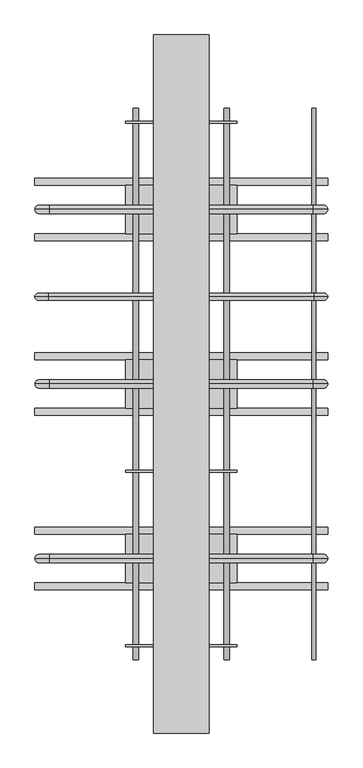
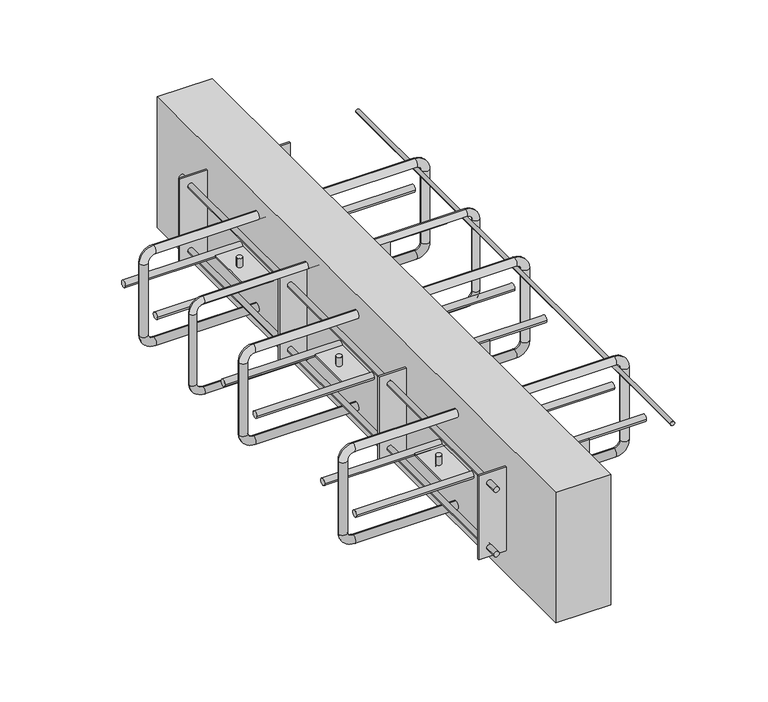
"""IFC4 building model written with IfcOpenShell, lengths in millimetres: proxy geometry, ACINOXplus_Typenreihe_Ux-Ox : OC+ S3."""

from ifc_helpers import new_model, si_unit, point, frame, frame_2d, origin, place, context, project, spatial, polyline, circle_curve, ellipse_curve, trimmed, segment, composite_curve, outline, extrude, source, transform, mapped, element, save
from ifc_brep_helpers import cylinder_surface, revolved_surface, advanced_brep


def generic_models_98fbf626(model_context):
    return source(origin(), model_context, "Body", "SolidModel", [
        advanced_brep(
        [(189.0, 0.0, -35.5), (189.0, 0.0, -23.5), (-189.0, 0.0, -23.5), (-189.0, 0.0, -35.5), (-198.0, 0.0, -44.5), (-210.0, 0.0, -44.5), (-210.0, 0.0, -155.5), (-198.0, 0.0, -155.5), (-189.0, 0.0, -164.5), (-189.0, 0.0, -176.5), (189.0, 0.0, -176.5), (189.0, 0.0, -164.5), (198.0, 0.0, -155.5), (210.0, 0.0, -155.5), (210.0, 0.0, -44.5), (198.0, 0.0, -44.5)],
        [
            (0, 1, circle_curve(frame((189.0, 0.0, -29.5), z_axis=(-1.0, 0.0, 0.0), x_axis=(0.0, 0.0, -1.0)), 6.0)),
            (1, 2),
            (2, 3, circle_curve(frame((-189.0, 0.0, -29.5), z_axis=(1.0, 0.0, 0.0), x_axis=(0.0, 0.0, -1.0)), 6.0)),
            (3, 0),
            (1, 0, circle_curve(frame((189.0, 0.0, -29.5), z_axis=(-1.0, 0.0, 0.0), x_axis=(0.0, 0.0, -1.0)), 6.0)),
            (3, 2, circle_curve(frame((-189.0, 0.0, -29.5), z_axis=(1.0, 0.0, 0.0), x_axis=(0.0, 0.0, -1.0)), 6.0)),
            (4, 3, circle_curve(frame((-189.0, 0.0, -44.5), z_axis=(0.0, 1.0, 0.0), x_axis=(0.0, 0.0, 1.0)), 9.0)),
            (2, 5, circle_curve(frame((-189.0, 0.0, -44.5), z_axis=(0.0, -1.0, 0.0), x_axis=(0.0, 0.0, 1.0)), 21.0)),
            (5, 4, circle_curve(frame((-204.0, 0.0, -44.5), z_axis=(0.0, 0.0, 1.0), x_axis=(1.0, 0.0, 0.0)), 6.0)),
            (4, 5, circle_curve(frame((-204.0, 0.0, -44.5), z_axis=(0.0, 0.0, 1.0), x_axis=(1.0, 0.0, 0.0)), 6.0)),
            (5, 6),
            (6, 7, circle_curve(frame((-204.0, 0.0, -155.5), z_axis=(0.0, 0.0, 1.0), x_axis=(1.0, 0.0, 0.0)), 6.0)),
            (7, 4),
            (7, 6, circle_curve(frame((-204.0, 0.0, -155.5), z_axis=(0.0, 0.0, 1.0), x_axis=(1.0, 0.0, 0.0)), 6.0)),
            (8, 7, circle_curve(frame((-189.0, 0.0, -155.5), z_axis=(0.0, 1.0, 0.0), x_axis=(-1.0, 0.0, 0.0)), 9.0)),
            (6, 9, circle_curve(frame((-189.0, 0.0, -155.5), z_axis=(0.0, -1.0, 0.0), x_axis=(-1.0, 0.0, 0.0)), 21.0)),
            (9, 8, circle_curve(frame((-189.0, 0.0, -170.5), z_axis=(-1.0, 0.0, 0.0), x_axis=(0.0, 0.0, 1.0)), 6.0)),
            (8, 9, circle_curve(frame((-189.0, 0.0, -170.5), z_axis=(-1.0, 0.0, 0.0), x_axis=(0.0, 0.0, 1.0)), 6.0)),
            (9, 10),
            (10, 11, circle_curve(frame((189.0, 0.0, -170.5), z_axis=(-1.0, 0.0, 0.0), x_axis=(0.0, 0.0, 1.0)), 6.0)),
            (11, 8),
            (11, 10, circle_curve(frame((189.0, 0.0, -170.5), z_axis=(-1.0, 0.0, 0.0), x_axis=(0.0, 0.0, 1.0)), 6.0)),
            (12, 11, circle_curve(frame((189.0, 0.0, -155.5), z_axis=(0.0, 1.0, 0.0), x_axis=(0.0, 0.0, -1.0)), 9.0)),
            (10, 13, circle_curve(frame((189.0, 0.0, -155.5), z_axis=(0.0, -1.0, 0.0), x_axis=(0.0, 0.0, -1.0)), 21.0)),
            (13, 12, circle_curve(frame((204.0, 0.0, -155.5), z_axis=(0.0, 0.0, -1.0), x_axis=(-1.0, 0.0, 0.0)), 6.0)),
            (12, 13, circle_curve(frame((204.0, 0.0, -155.5), z_axis=(0.0, 0.0, -1.0), x_axis=(-1.0, 0.0, 0.0)), 6.0)),
            (13, 14),
            (14, 15, circle_curve(frame((204.0, 0.0, -44.5), z_axis=(0.0, 0.0, -1.0), x_axis=(-1.0, 0.0, 0.0)), 6.0)),
            (15, 12),
            (15, 14, circle_curve(frame((204.0, 0.0, -44.5), z_axis=(0.0, 0.0, -1.0), x_axis=(-1.0, 0.0, 0.0)), 6.0)),
            (0, 15, circle_curve(frame((189.0, 0.0, -44.5), z_axis=(0.0, 1.0, 0.0), x_axis=(1.0, 0.0, 0.0)), 9.0)),
            (14, 1, circle_curve(frame((189.0, 0.0, -44.5), z_axis=(0.0, -1.0, 0.0), x_axis=(1.0, 0.0, 0.0)), 21.0)),
        ],
        [
            cylinder_surface(frame((189.0, 0.0, -29.5), z_axis=(1.0, 0.0, 0.0), x_axis=(0.0, 0.0, -1.0)), 6.0),
            revolved_surface(trimmed(ellipse_curve(frame((-189.0, 0.0, -29.5), z_axis=(1.0, 0.0, 0.0), x_axis=(0.0, 0.0, -1.0)), 6.0, 6.0), [point((-189.0, 0.0, -23.5))], [point((-189.0, 0.0, -35.5))], True, "CARTESIAN"), (-189.0, 0.0, -44.5), (0.0, -1.0, 0.0)),
            revolved_surface(trimmed(ellipse_curve(frame((-189.0, 0.0, -29.5), z_axis=(1.0, 0.0, 0.0), x_axis=(0.0, 0.0, -1.0)), 6.0, 6.0), [point((-189.0, 0.0, -35.5))], [point((-189.0, 0.0, -23.5))], True, "CARTESIAN"), (-189.0, 0.0, -44.5), (0.0, -1.0, 0.0)),
            cylinder_surface(frame((-204.0, 0.0, -44.5), z_axis=(0.0, 0.0, 1.0), x_axis=(1.0, 0.0, 0.0)), 6.0),
            revolved_surface(trimmed(ellipse_curve(frame((-204.0, 0.0, -155.5), z_axis=(0.0, 0.0, 1.0), x_axis=(1.0, 0.0, 0.0)), 6.0, 6.0), [point((-210.0, 0.0, -155.5))], [point((-198.0, 0.0, -155.5))], True, "CARTESIAN"), (-189.0, 0.0, -155.5), (0.0, -1.0, 0.0)),
            revolved_surface(trimmed(ellipse_curve(frame((-204.0, 0.0, -155.5), z_axis=(0.0, 0.0, 1.0), x_axis=(1.0, 0.0, 0.0)), 6.0, 6.0), [point((-198.0, 0.0, -155.5))], [point((-210.0, 0.0, -155.5))], True, "CARTESIAN"), (-189.0, 0.0, -155.5), (0.0, -1.0, 0.0)),
            cylinder_surface(frame((-189.0, 0.0, -170.5), z_axis=(-1.0, 0.0, 0.0), x_axis=(0.0, 0.0, 1.0)), 6.0),
            revolved_surface(trimmed(ellipse_curve(frame((189.0, 0.0, -170.5), z_axis=(-1.0, 0.0, 0.0), x_axis=(0.0, 0.0, 1.0)), 6.0, 6.0), [point((189.0, 0.0, -176.5))], [point((189.0, 0.0, -164.5))], True, "CARTESIAN"), (189.0, 0.0, -155.5), (0.0, -1.0, 0.0)),
            revolved_surface(trimmed(ellipse_curve(frame((189.0, 0.0, -170.5), z_axis=(-1.0, 0.0, 0.0), x_axis=(0.0, 0.0, 1.0)), 6.0, 6.0), [point((189.0, 0.0, -164.5))], [point((189.0, 0.0, -176.5))], True, "CARTESIAN"), (189.0, 0.0, -155.5), (0.0, -1.0, 0.0)),
            cylinder_surface(frame((204.0, 0.0, -155.5), z_axis=(0.0, 0.0, -1.0), x_axis=(-1.0, 0.0, 0.0)), 6.0),
            revolved_surface(trimmed(ellipse_curve(frame((204.0, 0.0, -44.5), z_axis=(0.0, 0.0, -1.0), x_axis=(-1.0, 0.0, 0.0)), 6.0, 6.0), [point((210.0, 0.0, -44.5))], [point((198.0, 0.0, -44.5))], True, "CARTESIAN"), (189.0, 0.0, -44.5), (0.0, -1.0, 0.0)),
            revolved_surface(trimmed(ellipse_curve(frame((204.0, 0.0, -44.5), z_axis=(0.0, 0.0, -1.0), x_axis=(-1.0, 0.0, 0.0)), 6.0, 6.0), [point((198.0, 0.0, -44.5))], [point((210.0, 0.0, -44.5))], True, "CARTESIAN"), (189.0, 0.0, -44.5), (0.0, -1.0, 0.0)),
        ],
        [
            (0, [[1, 2, 3, 4]]),
            (0, [[5, -4, 6, -2]]),
            (1, [[7, -3, 8, 9]]),
            (2, [[-8, -6, -7, 10]]),
            (3, [[-9, 11, 12, 13]]),
            (3, [[-10, -13, 14, -11]]),
            (4, [[15, -12, 16, 17]]),
            (5, [[-16, -14, -15, 18]]),
            (6, [[-17, 19, 20, 21]]),
            (6, [[-18, -21, 22, -19]]),
            (7, [[23, -20, 24, 25]]),
            (8, [[-24, -22, -23, 26]]),
            (9, [[-25, 27, 28, 29]]),
            (9, [[-26, -29, 30, -27]]),
            (10, [[31, -28, 32, -1]]),
            (11, [[-32, -30, -31, -5]]),
        ],
    ),
        advanced_brep(
        [(189.0, 250.0, -35.5), (189.0, 250.0, -23.5), (-189.0, 250.0, -23.5), (-189.0, 250.0, -35.5), (-198.0, 250.0, -44.5), (-210.0, 250.0, -44.5), (-210.0, 250.0, -155.5), (-198.0, 250.0, -155.5), (-189.0, 250.0, -164.5), (-189.0, 250.0, -176.5), (189.0, 250.0, -176.5), (189.0, 250.0, -164.5), (198.0, 250.0, -155.5), (210.0, 250.0, -155.5), (210.0, 250.0, -44.5), (198.0, 250.0, -44.5)],
        [
            (0, 1, circle_curve(frame((189.0, 250.0, -29.5), z_axis=(-1.0, 0.0, 0.0), x_axis=(0.0, 0.0, -1.0)), 6.0)),
            (1, 2),
            (2, 3, circle_curve(frame((-189.0, 250.0, -29.5), z_axis=(1.0, 0.0, 0.0), x_axis=(0.0, 0.0, -1.0)), 6.0)),
            (3, 0),
            (1, 0, circle_curve(frame((189.0, 250.0, -29.5), z_axis=(-1.0, 0.0, 0.0), x_axis=(0.0, 0.0, -1.0)), 6.0)),
            (3, 2, circle_curve(frame((-189.0, 250.0, -29.5), z_axis=(1.0, 0.0, 0.0), x_axis=(0.0, 0.0, -1.0)), 6.0)),
            (4, 3, circle_curve(frame((-189.0, 250.0, -44.5), z_axis=(0.0, 1.0, 0.0), x_axis=(0.0, 0.0, 1.0)), 9.0)),
            (2, 5, circle_curve(frame((-189.0, 250.0, -44.5), z_axis=(0.0, -1.0, 0.0), x_axis=(0.0, 0.0, 1.0)), 21.0)),
            (5, 4, circle_curve(frame((-204.0, 250.0, -44.5), z_axis=(0.0, 0.0, 1.0), x_axis=(1.0, 0.0, 0.0)), 6.0)),
            (4, 5, circle_curve(frame((-204.0, 250.0, -44.5), z_axis=(0.0, 0.0, 1.0), x_axis=(1.0, 0.0, 0.0)), 6.0)),
            (5, 6),
            (6, 7, circle_curve(frame((-204.0, 250.0, -155.5), z_axis=(0.0, 0.0, 1.0), x_axis=(1.0, 0.0, 0.0)), 6.0)),
            (7, 4),
            (7, 6, circle_curve(frame((-204.0, 250.0, -155.5), z_axis=(0.0, 0.0, 1.0), x_axis=(1.0, 0.0, 0.0)), 6.0)),
            (8, 7, circle_curve(frame((-189.0, 250.0, -155.5), z_axis=(0.0, 1.0, 0.0), x_axis=(-1.0, 0.0, 0.0)), 9.0)),
            (6, 9, circle_curve(frame((-189.0, 250.0, -155.5), z_axis=(0.0, -1.0, 0.0), x_axis=(-1.0, 0.0, 0.0)), 21.0)),
            (9, 8, circle_curve(frame((-189.0, 250.0, -170.5), z_axis=(-1.0, 0.0, 0.0), x_axis=(0.0, 0.0, 1.0)), 6.0)),
            (8, 9, circle_curve(frame((-189.0, 250.0, -170.5), z_axis=(-1.0, 0.0, 0.0), x_axis=(0.0, 0.0, 1.0)), 6.0)),
            (9, 10),
            (10, 11, circle_curve(frame((189.0, 250.0, -170.5), z_axis=(-1.0, 0.0, 0.0), x_axis=(0.0, 0.0, 1.0)), 6.0)),
            (11, 8),
            (11, 10, circle_curve(frame((189.0, 250.0, -170.5), z_axis=(-1.0, 0.0, 0.0), x_axis=(0.0, 0.0, 1.0)), 6.0)),
            (12, 11, circle_curve(frame((189.0, 250.0, -155.5), z_axis=(0.0, 1.0, 0.0), x_axis=(0.0, 0.0, -1.0)), 9.0)),
            (10, 13, circle_curve(frame((189.0, 250.0, -155.5), z_axis=(0.0, -1.0, 0.0), x_axis=(0.0, 0.0, -1.0)), 21.0)),
            (13, 12, circle_curve(frame((204.0, 250.0, -155.5), z_axis=(0.0, 0.0, -1.0), x_axis=(-1.0, 0.0, 0.0)), 6.0)),
            (12, 13, circle_curve(frame((204.0, 250.0, -155.5), z_axis=(0.0, 0.0, -1.0), x_axis=(-1.0, 0.0, 0.0)), 6.0)),
            (13, 14),
            (14, 15, circle_curve(frame((204.0, 250.0, -44.5), z_axis=(0.0, 0.0, -1.0), x_axis=(-1.0, 0.0, 0.0)), 6.0)),
            (15, 12),
            (15, 14, circle_curve(frame((204.0, 250.0, -44.5), z_axis=(0.0, 0.0, -1.0), x_axis=(-1.0, 0.0, 0.0)), 6.0)),
            (0, 15, circle_curve(frame((189.0, 250.0, -44.5), z_axis=(0.0, 1.0, 0.0), x_axis=(1.0, 0.0, 0.0)), 9.0)),
            (14, 1, circle_curve(frame((189.0, 250.0, -44.5), z_axis=(0.0, -1.0, 0.0), x_axis=(1.0, 0.0, 0.0)), 21.0)),
        ],
        [
            cylinder_surface(frame((189.0, 250.0, -29.5), z_axis=(1.0, 0.0, 0.0), x_axis=(0.0, 0.0, -1.0)), 6.0),
            revolved_surface(trimmed(ellipse_curve(frame((-189.0, 250.0, -29.5), z_axis=(1.0, 0.0, 0.0), x_axis=(0.0, 0.0, -1.0)), 6.0, 6.0), [point((-189.0, 250.0, -23.5))], [point((-189.0, 250.0, -35.5))], True, "CARTESIAN"), (-189.0, 250.0, -44.5), (0.0, -1.0, 0.0)),
            revolved_surface(trimmed(ellipse_curve(frame((-189.0, 250.0, -29.5), z_axis=(1.0, 0.0, 0.0), x_axis=(0.0, 0.0, -1.0)), 6.0, 6.0), [point((-189.0, 250.0, -35.5))], [point((-189.0, 250.0, -23.5))], True, "CARTESIAN"), (-189.0, 250.0, -44.5), (0.0, -1.0, 0.0)),
            cylinder_surface(frame((-204.0, 250.0, -44.5), z_axis=(0.0, 0.0, 1.0), x_axis=(1.0, 0.0, 0.0)), 6.0),
            revolved_surface(trimmed(ellipse_curve(frame((-204.0, 250.0, -155.5), z_axis=(0.0, 0.0, 1.0), x_axis=(1.0, 0.0, 0.0)), 6.0, 6.0), [point((-210.0, 250.0, -155.5))], [point((-198.0, 250.0, -155.5))], True, "CARTESIAN"), (-189.0, 250.0, -155.5), (0.0, -1.0, 0.0)),
            revolved_surface(trimmed(ellipse_curve(frame((-204.0, 250.0, -155.5), z_axis=(0.0, 0.0, 1.0), x_axis=(1.0, 0.0, 0.0)), 6.0, 6.0), [point((-198.0, 250.0, -155.5))], [point((-210.0, 250.0, -155.5))], True, "CARTESIAN"), (-189.0, 250.0, -155.5), (0.0, -1.0, 0.0)),
            cylinder_surface(frame((-189.0, 250.0, -170.5), z_axis=(-1.0, 0.0, 0.0), x_axis=(0.0, 0.0, 1.0)), 6.0),
            revolved_surface(trimmed(ellipse_curve(frame((189.0, 250.0, -170.5), z_axis=(-1.0, 0.0, 0.0), x_axis=(0.0, 0.0, 1.0)), 6.0, 6.0), [point((189.0, 250.0, -176.5))], [point((189.0, 250.0, -164.5))], True, "CARTESIAN"), (189.0, 250.0, -155.5), (0.0, -1.0, 0.0)),
            revolved_surface(trimmed(ellipse_curve(frame((189.0, 250.0, -170.5), z_axis=(-1.0, 0.0, 0.0), x_axis=(0.0, 0.0, 1.0)), 6.0, 6.0), [point((189.0, 250.0, -164.5))], [point((189.0, 250.0, -176.5))], True, "CARTESIAN"), (189.0, 250.0, -155.5), (0.0, -1.0, 0.0)),
            cylinder_surface(frame((204.0, 250.0, -155.5), z_axis=(0.0, 0.0, -1.0), x_axis=(-1.0, 0.0, 0.0)), 6.0),
            revolved_surface(trimmed(ellipse_curve(frame((204.0, 250.0, -44.5), z_axis=(0.0, 0.0, -1.0), x_axis=(-1.0, 0.0, 0.0)), 6.0, 6.0), [point((210.0, 250.0, -44.5))], [point((198.0, 250.0, -44.5))], True, "CARTESIAN"), (189.0, 250.0, -44.5), (0.0, -1.0, 0.0)),
            revolved_surface(trimmed(ellipse_curve(frame((204.0, 250.0, -44.5), z_axis=(0.0, 0.0, -1.0), x_axis=(-1.0, 0.0, 0.0)), 6.0, 6.0), [point((198.0, 250.0, -44.5))], [point((210.0, 250.0, -44.5))], True, "CARTESIAN"), (189.0, 250.0, -44.5), (0.0, -1.0, 0.0)),
        ],
        [
            (0, [[1, 2, 3, 4]]),
            (0, [[5, -4, 6, -2]]),
            (1, [[7, -3, 8, 9]]),
            (2, [[-8, -6, -7, 10]]),
            (3, [[-9, 11, 12, 13]]),
            (3, [[-10, -13, 14, -11]]),
            (4, [[15, -12, 16, 17]]),
            (5, [[-16, -14, -15, 18]]),
            (6, [[-17, 19, 20, 21]]),
            (6, [[-18, -21, 22, -19]]),
            (7, [[23, -20, 24, 25]]),
            (8, [[-24, -22, -23, 26]]),
            (9, [[-25, 27, 28, 29]]),
            (9, [[-26, -29, 30, -27]]),
            (10, [[31, -28, 32, -1]]),
            (11, [[-32, -30, -31, -5]]),
        ],
    ),
        advanced_brep(
        [(189.0, -250.0, -35.5), (189.0, -250.0, -23.5), (-189.0, -250.0, -23.5), (-189.0, -250.0, -35.5), (-198.0, -250.0, -44.5), (-210.0, -250.0, -44.5), (-210.0, -250.0, -155.5), (-198.0, -250.0, -155.5), (-189.0, -250.0, -164.5), (-189.0, -250.0, -176.5), (189.0, -250.0, -176.5), (189.0, -250.0, -164.5), (198.0, -250.0, -155.5), (210.0, -250.0, -155.5), (210.0, -250.0, -44.5), (198.0, -250.0, -44.5)],
        [
            (0, 1, circle_curve(frame((189.0, -250.0, -29.5), z_axis=(-1.0, 0.0, 0.0), x_axis=(0.0, 0.0, -1.0)), 6.0)),
            (1, 2),
            (2, 3, circle_curve(frame((-189.0, -250.0, -29.5), z_axis=(1.0, 0.0, 0.0), x_axis=(0.0, 0.0, -1.0)), 6.0)),
            (3, 0),
            (1, 0, circle_curve(frame((189.0, -250.0, -29.5), z_axis=(-1.0, 0.0, 0.0), x_axis=(0.0, 0.0, -1.0)), 6.0)),
            (3, 2, circle_curve(frame((-189.0, -250.0, -29.5), z_axis=(1.0, 0.0, 0.0), x_axis=(0.0, 0.0, -1.0)), 6.0)),
            (4, 3, circle_curve(frame((-189.0, -250.0, -44.5), z_axis=(0.0, 1.0, 0.0), x_axis=(0.0, 0.0, 1.0)), 9.0)),
            (2, 5, circle_curve(frame((-189.0, -250.0, -44.5), z_axis=(0.0, -1.0, 0.0), x_axis=(0.0, 0.0, 1.0)), 21.0)),
            (5, 4, circle_curve(frame((-204.0, -250.0, -44.5), z_axis=(0.0, 0.0, 1.0), x_axis=(1.0, 0.0, 0.0)), 6.0)),
            (4, 5, circle_curve(frame((-204.0, -250.0, -44.5), z_axis=(0.0, 0.0, 1.0), x_axis=(1.0, 0.0, 0.0)), 6.0)),
            (5, 6),
            (6, 7, circle_curve(frame((-204.0, -250.0, -155.5), z_axis=(0.0, 0.0, 1.0), x_axis=(1.0, 0.0, 0.0)), 6.0)),
            (7, 4),
            (7, 6, circle_curve(frame((-204.0, -250.0, -155.5), z_axis=(0.0, 0.0, 1.0), x_axis=(1.0, 0.0, 0.0)), 6.0)),
            (8, 7, circle_curve(frame((-189.0, -250.0, -155.5), z_axis=(0.0, 1.0, 0.0), x_axis=(-1.0, 0.0, 0.0)), 9.0)),
            (6, 9, circle_curve(frame((-189.0, -250.0, -155.5), z_axis=(0.0, -1.0, 0.0), x_axis=(-1.0, 0.0, 0.0)), 21.0)),
            (9, 8, circle_curve(frame((-189.0, -250.0, -170.5), z_axis=(-1.0, 0.0, 0.0), x_axis=(0.0, 0.0, 1.0)), 6.0)),
            (8, 9, circle_curve(frame((-189.0, -250.0, -170.5), z_axis=(-1.0, 0.0, 0.0), x_axis=(0.0, 0.0, 1.0)), 6.0)),
            (9, 10),
            (10, 11, circle_curve(frame((189.0, -250.0, -170.5), z_axis=(-1.0, 0.0, 0.0), x_axis=(0.0, 0.0, 1.0)), 6.0)),
            (11, 8),
            (11, 10, circle_curve(frame((189.0, -250.0, -170.5), z_axis=(-1.0, 0.0, 0.0), x_axis=(0.0, 0.0, 1.0)), 6.0)),
            (12, 11, circle_curve(frame((189.0, -250.0, -155.5), z_axis=(0.0, 1.0, 0.0), x_axis=(0.0, 0.0, -1.0)), 9.0)),
            (10, 13, circle_curve(frame((189.0, -250.0, -155.5), z_axis=(0.0, -1.0, 0.0), x_axis=(0.0, 0.0, -1.0)), 21.0)),
            (13, 12, circle_curve(frame((204.0, -250.0, -155.5), z_axis=(0.0, 0.0, -1.0), x_axis=(-1.0, 0.0, 0.0)), 6.0)),
            (12, 13, circle_curve(frame((204.0, -250.0, -155.5), z_axis=(0.0, 0.0, -1.0), x_axis=(-1.0, 0.0, 0.0)), 6.0)),
            (13, 14),
            (14, 15, circle_curve(frame((204.0, -250.0, -44.5), z_axis=(0.0, 0.0, -1.0), x_axis=(-1.0, 0.0, 0.0)), 6.0)),
            (15, 12),
            (15, 14, circle_curve(frame((204.0, -250.0, -44.5), z_axis=(0.0, 0.0, -1.0), x_axis=(-1.0, 0.0, 0.0)), 6.0)),
            (0, 15, circle_curve(frame((189.0, -250.0, -44.5), z_axis=(0.0, 1.0, 0.0), x_axis=(1.0, 0.0, 0.0)), 9.0)),
            (14, 1, circle_curve(frame((189.0, -250.0, -44.5), z_axis=(0.0, -1.0, 0.0), x_axis=(1.0, 0.0, 0.0)), 21.0)),
        ],
        [
            cylinder_surface(frame((189.0, -250.0, -29.5), z_axis=(1.0, 0.0, 0.0), x_axis=(0.0, 0.0, -1.0)), 6.0),
            revolved_surface(trimmed(ellipse_curve(frame((-189.0, -250.0, -29.5), z_axis=(1.0, 0.0, 0.0), x_axis=(0.0, 0.0, -1.0)), 6.0, 6.0), [point((-189.0, -250.0, -23.5))], [point((-189.0, -250.0, -35.5))], True, "CARTESIAN"), (-189.0, -250.0, -44.5), (0.0, -1.0, 0.0)),
            revolved_surface(trimmed(ellipse_curve(frame((-189.0, -250.0, -29.5), z_axis=(1.0, 0.0, 0.0), x_axis=(0.0, 0.0, -1.0)), 6.0, 6.0), [point((-189.0, -250.0, -35.5))], [point((-189.0, -250.0, -23.5))], True, "CARTESIAN"), (-189.0, -250.0, -44.5), (0.0, -1.0, 0.0)),
            cylinder_surface(frame((-204.0, -250.0, -44.5), z_axis=(0.0, 0.0, 1.0), x_axis=(1.0, 0.0, 0.0)), 6.0),
            revolved_surface(trimmed(ellipse_curve(frame((-204.0, -250.0, -155.5), z_axis=(0.0, 0.0, 1.0), x_axis=(1.0, 0.0, 0.0)), 6.0, 6.0), [point((-210.0, -250.0, -155.5))], [point((-198.0, -250.0, -155.5))], True, "CARTESIAN"), (-189.0, -250.0, -155.5), (0.0, -1.0, 0.0)),
            revolved_surface(trimmed(ellipse_curve(frame((-204.0, -250.0, -155.5), z_axis=(0.0, 0.0, 1.0), x_axis=(1.0, 0.0, 0.0)), 6.0, 6.0), [point((-198.0, -250.0, -155.5))], [point((-210.0, -250.0, -155.5))], True, "CARTESIAN"), (-189.0, -250.0, -155.5), (0.0, -1.0, 0.0)),
            cylinder_surface(frame((-189.0, -250.0, -170.5), z_axis=(-1.0, 0.0, 0.0), x_axis=(0.0, 0.0, 1.0)), 6.0),
            revolved_surface(trimmed(ellipse_curve(frame((189.0, -250.0, -170.5), z_axis=(-1.0, 0.0, 0.0), x_axis=(0.0, 0.0, 1.0)), 6.0, 6.0), [point((189.0, -250.0, -176.5))], [point((189.0, -250.0, -164.5))], True, "CARTESIAN"), (189.0, -250.0, -155.5), (0.0, -1.0, 0.0)),
            revolved_surface(trimmed(ellipse_curve(frame((189.0, -250.0, -170.5), z_axis=(-1.0, 0.0, 0.0), x_axis=(0.0, 0.0, 1.0)), 6.0, 6.0), [point((189.0, -250.0, -164.5))], [point((189.0, -250.0, -176.5))], True, "CARTESIAN"), (189.0, -250.0, -155.5), (0.0, -1.0, 0.0)),
            cylinder_surface(frame((204.0, -250.0, -155.5), z_axis=(0.0, 0.0, -1.0), x_axis=(-1.0, 0.0, 0.0)), 6.0),
            revolved_surface(trimmed(ellipse_curve(frame((204.0, -250.0, -44.5), z_axis=(0.0, 0.0, -1.0), x_axis=(-1.0, 0.0, 0.0)), 6.0, 6.0), [point((210.0, -250.0, -44.5))], [point((198.0, -250.0, -44.5))], True, "CARTESIAN"), (189.0, -250.0, -44.5), (0.0, -1.0, 0.0)),
            revolved_surface(trimmed(ellipse_curve(frame((204.0, -250.0, -44.5), z_axis=(0.0, 0.0, -1.0), x_axis=(-1.0, 0.0, 0.0)), 6.0, 6.0), [point((198.0, -250.0, -44.5))], [point((210.0, -250.0, -44.5))], True, "CARTESIAN"), (189.0, -250.0, -44.5), (0.0, -1.0, 0.0)),
        ],
        [
            (0, [[1, 2, 3, 4]]),
            (0, [[5, -4, 6, -2]]),
            (1, [[7, -3, 8, 9]]),
            (2, [[-8, -6, -7, 10]]),
            (3, [[-9, 11, 12, 13]]),
            (3, [[-10, -13, 14, -11]]),
            (4, [[15, -12, 16, 17]]),
            (5, [[-16, -14, -15, 18]]),
            (6, [[-17, 19, 20, 21]]),
            (6, [[-18, -21, 22, -19]]),
            (7, [[23, -20, 24, 25]]),
            (8, [[-24, -22, -23, 26]]),
            (9, [[-25, 27, 28, 29]]),
            (9, [[-26, -29, 30, -27]]),
            (10, [[31, -28, 32, -1]]),
            (11, [[-32, -30, -31, -5]]),
        ],
    ),
        extrude(outline(composite_curve([segment(trimmed(circle_curve(frame_2d((-38.5, 190.0)), 3.0), [point((-38.5, 193.0))], [point((-38.5, 187.0))], False, "CARTESIAN"), True, "CONTINUOUS"), segment(trimmed(circle_curve(frame_2d((-38.5, 190.0)), 3.0), [point((-38.5, 187.0))], [point((-38.5, 193.0))], False, "CARTESIAN"), True, "CONTINUOUS")], self_intersect=False)), frame((0.0, -395.0, 0.0), z_axis=(0.0, 1.0, 0.0), x_axis=(0.0, 0.0, 1.0)), (0.0, 0.0, 1.0), 790.0),
        extrude(outline(composite_curve([segment(trimmed(circle_curve(frame_2d((-40.0, -100.0)), 5.0), [point((-45.0, -100.0))], [point((-35.0, -100.0))], False, "CARTESIAN"), True, "CONTINUOUS"), segment(trimmed(circle_curve(frame_2d((-40.0, -100.0)), 5.0), [point((-35.0, -100.0))], [point((-45.0, -100.0))], False, "CARTESIAN"), True, "CONTINUOUS")], self_intersect=False)), frame((-210.0, 0.0, 0.0), z_axis=(1.0, 0.0, 0.0), x_axis=(0.0, 1.0, 0.0)), (0.0, 0.0, 1.0), 420.0),
        extrude(outline(composite_curve([segment(trimmed(circle_curve(frame_2d((40.0, -100.0)), 5.0), [point((35.0, -100.0))], [point((45.0, -100.0))], False, "CARTESIAN"), True, "CONTINUOUS"), segment(trimmed(circle_curve(frame_2d((40.0, -100.0)), 5.0), [point((45.0, -100.0))], [point((35.0, -100.0))], False, "CARTESIAN"), True, "CONTINUOUS")], self_intersect=False)), frame((-210.0, 0.0, 0.0), z_axis=(1.0, 0.0, 0.0), x_axis=(0.0, 1.0, 0.0)), (0.0, 0.0, 1.0), 420.0),
        extrude(outline(composite_curve([segment(trimmed(circle_curve(frame_2d((-65.0, 0.0)), 4.0), [point((-61.0, 0.0))], [point((-69.0, 0.0))], False, "CARTESIAN"), True, "CONTINUOUS"), segment(trimmed(circle_curve(frame_2d((-65.0, 0.0)), 4.0), [point((-69.0, 0.0))], [point((-61.0, 0.0))], False, "CARTESIAN"), True, "CONTINUOUS")], self_intersect=False)), frame((0.0, 0.0, -98.5), z_axis=(0.0, 0.0, 1.0), x_axis=(1.0, 0.0, 0.0)), (0.0, 0.0, 1.0), 13.5),
        extrude(outline(composite_curve([segment(trimmed(circle_curve(frame_2d((65.0, 0.0)), 4.0), [point((69.0, 0.0))], [point((61.0, 0.0))], False, "CARTESIAN"), True, "CONTINUOUS"), segment(trimmed(circle_curve(frame_2d((65.0, 0.0)), 4.0), [point((61.0, 0.0))], [point((69.0, 0.0))], False, "CARTESIAN"), True, "CONTINUOUS")], self_intersect=False)), frame((0.0, 0.0, -98.5), z_axis=(0.0, 0.0, 1.0), x_axis=(1.0, 0.0, 0.0)), (0.0, 0.0, 1.0), 13.5),
        extrude(outline(composite_curve([segment(trimmed(circle_curve(frame_2d((-65.0, 0.0)), 4.0), [point((-69.0, 0.0))], [point((-61.0, 0.0))], False, "CARTESIAN"), True, "CONTINUOUS"), segment(trimmed(circle_curve(frame_2d((-65.0, 0.0)), 4.0), [point((-61.0, 0.0))], [point((-69.0, 0.0))], False, "CARTESIAN"), True, "CONTINUOUS")], self_intersect=False)), frame((0.0, 0.0, -115.0), z_axis=(0.0, 0.0, 1.0), x_axis=(1.0, 0.0, 0.0)), (0.0, 0.0, 1.0), 13.5),
        extrude(outline(composite_curve([segment(trimmed(circle_curve(frame_2d((65.0, 0.0)), 4.0), [point((61.0, 0.0))], [point((69.0, 0.0))], False, "CARTESIAN"), True, "CONTINUOUS"), segment(trimmed(circle_curve(frame_2d((65.0, 0.0)), 4.0), [point((69.0, 0.0))], [point((61.0, 0.0))], False, "CARTESIAN"), True, "CONTINUOUS")], self_intersect=False)), frame((0.0, 0.0, -115.0), z_axis=(0.0, 0.0, 1.0), x_axis=(1.0, 0.0, 0.0)), (0.0, 0.0, 1.0), 13.5),
        extrude(outline(polyline([(80.0, 35.0), (80.0, -35.0), (-80.0, -35.0), (-80.0, 35.0), (80.0, 35.0)])), frame((0.0, 0.0, -101.5), z_axis=(0.0, 0.0, 1.0), x_axis=(1.0, 0.0, 0.0)), (0.0, 0.0, 1.0), 3.0),
        extrude(outline(composite_curve([segment(trimmed(circle_curve(frame_2d((-290.0, -100.0)), 5.0), [point((-295.0, -100.0))], [point((-285.0, -100.0))], False, "CARTESIAN"), True, "CONTINUOUS"), segment(trimmed(circle_curve(frame_2d((-290.0, -100.0)), 5.0), [point((-285.0, -100.0))], [point((-295.0, -100.0))], False, "CARTESIAN"), True, "CONTINUOUS")], self_intersect=False)), frame((-210.0, 0.0, 0.0), z_axis=(1.0, 0.0, 0.0), x_axis=(0.0, 1.0, 0.0)), (0.0, 0.0, 1.0), 420.0),
        extrude(outline(composite_curve([segment(trimmed(circle_curve(frame_2d((-210.0, -100.0)), 5.0), [point((-215.0, -100.0))], [point((-205.0, -100.0))], False, "CARTESIAN"), True, "CONTINUOUS"), segment(trimmed(circle_curve(frame_2d((-210.0, -100.0)), 5.0), [point((-205.0, -100.0))], [point((-215.0, -100.0))], False, "CARTESIAN"), True, "CONTINUOUS")], self_intersect=False)), frame((-210.0, 0.0, 0.0), z_axis=(1.0, 0.0, 0.0), x_axis=(0.0, 1.0, 0.0)), (0.0, 0.0, 1.0), 420.0),
        extrude(outline(composite_curve([segment(trimmed(circle_curve(frame_2d((-65.0, -250.0)), 4.0), [point((-61.0, -250.0))], [point((-69.0, -250.0))], False, "CARTESIAN"), True, "CONTINUOUS"), segment(trimmed(circle_curve(frame_2d((-65.0, -250.0)), 4.0), [point((-69.0, -250.0))], [point((-61.0, -250.0))], False, "CARTESIAN"), True, "CONTINUOUS")], self_intersect=False)), frame((0.0, 0.0, -98.5), z_axis=(0.0, 0.0, 1.0), x_axis=(1.0, 0.0, 0.0)), (0.0, 0.0, 1.0), 13.5),
        extrude(outline(composite_curve([segment(trimmed(circle_curve(frame_2d((65.0, -250.0)), 4.0), [point((69.0, -250.0))], [point((61.0, -250.0))], False, "CARTESIAN"), True, "CONTINUOUS"), segment(trimmed(circle_curve(frame_2d((65.0, -250.0)), 4.0), [point((61.0, -250.0))], [point((69.0, -250.0))], False, "CARTESIAN"), True, "CONTINUOUS")], self_intersect=False)), frame((0.0, 0.0, -98.5), z_axis=(0.0, 0.0, 1.0), x_axis=(1.0, 0.0, 0.0)), (0.0, 0.0, 1.0), 13.5),
        extrude(outline(composite_curve([segment(trimmed(circle_curve(frame_2d((-65.0, -250.0)), 4.0), [point((-69.0, -250.0))], [point((-61.0, -250.0))], False, "CARTESIAN"), True, "CONTINUOUS"), segment(trimmed(circle_curve(frame_2d((-65.0, -250.0)), 4.0), [point((-61.0, -250.0))], [point((-69.0, -250.0))], False, "CARTESIAN"), True, "CONTINUOUS")], self_intersect=False)), frame((0.0, 0.0, -115.0), z_axis=(0.0, 0.0, 1.0), x_axis=(1.0, 0.0, 0.0)), (0.0, 0.0, 1.0), 13.5),
        extrude(outline(composite_curve([segment(trimmed(circle_curve(frame_2d((65.0, -250.0)), 4.0), [point((61.0, -250.0))], [point((69.0, -250.0))], False, "CARTESIAN"), True, "CONTINUOUS"), segment(trimmed(circle_curve(frame_2d((65.0, -250.0)), 4.0), [point((69.0, -250.0))], [point((61.0, -250.0))], False, "CARTESIAN"), True, "CONTINUOUS")], self_intersect=False)), frame((0.0, 0.0, -115.0), z_axis=(0.0, 0.0, 1.0), x_axis=(1.0, 0.0, 0.0)), (0.0, 0.0, 1.0), 13.5),
        extrude(outline(polyline([(80.0, -215.0), (80.0, -285.0), (-80.0, -285.0), (-80.0, -215.0), (80.0, -215.0)])), frame((0.0, 0.0, -101.5), z_axis=(0.0, 0.0, 1.0), x_axis=(1.0, 0.0, 0.0)), (0.0, 0.0, 1.0), 3.0),
        extrude(outline(composite_curve([segment(trimmed(circle_curve(frame_2d((210.0, -100.0)), 5.0), [point((205.0, -100.0))], [point((215.0, -100.0))], False, "CARTESIAN"), True, "CONTINUOUS"), segment(trimmed(circle_curve(frame_2d((210.0, -100.0)), 5.0), [point((215.0, -100.0))], [point((205.0, -100.0))], False, "CARTESIAN"), True, "CONTINUOUS")], self_intersect=False)), frame((-210.0, 0.0, 0.0), z_axis=(1.0, 0.0, 0.0), x_axis=(0.0, 1.0, 0.0)), (0.0, 0.0, 1.0), 420.0),
        extrude(outline(composite_curve([segment(trimmed(circle_curve(frame_2d((290.0, -100.0)), 5.0), [point((285.0, -100.0))], [point((295.0, -100.0))], False, "CARTESIAN"), True, "CONTINUOUS"), segment(trimmed(circle_curve(frame_2d((290.0, -100.0)), 5.0), [point((295.0, -100.0))], [point((285.0, -100.0))], False, "CARTESIAN"), True, "CONTINUOUS")], self_intersect=False)), frame((-210.0, 0.0, 0.0), z_axis=(1.0, 0.0, 0.0), x_axis=(0.0, 1.0, 0.0)), (0.0, 0.0, 1.0), 420.0),
        extrude(outline(composite_curve([segment(trimmed(circle_curve(frame_2d((-65.0, 250.0)), 4.0), [point((-61.0, 250.0))], [point((-69.0, 250.0))], False, "CARTESIAN"), True, "CONTINUOUS"), segment(trimmed(circle_curve(frame_2d((-65.0, 250.0)), 4.0), [point((-69.0, 250.0))], [point((-61.0, 250.0))], False, "CARTESIAN"), True, "CONTINUOUS")], self_intersect=False)), frame((0.0, 0.0, -98.5), z_axis=(0.0, 0.0, 1.0), x_axis=(1.0, 0.0, 0.0)), (0.0, 0.0, 1.0), 13.5),
        extrude(outline(composite_curve([segment(trimmed(circle_curve(frame_2d((65.0, 250.0)), 4.0), [point((69.0, 250.0))], [point((61.0, 250.0))], False, "CARTESIAN"), True, "CONTINUOUS"), segment(trimmed(circle_curve(frame_2d((65.0, 250.0)), 4.0), [point((61.0, 250.0))], [point((69.0, 250.0))], False, "CARTESIAN"), True, "CONTINUOUS")], self_intersect=False)), frame((0.0, 0.0, -98.5), z_axis=(0.0, 0.0, 1.0), x_axis=(1.0, 0.0, 0.0)), (0.0, 0.0, 1.0), 13.5),
        extrude(outline(composite_curve([segment(trimmed(circle_curve(frame_2d((-65.0, 250.0)), 4.0), [point((-69.0, 250.0))], [point((-61.0, 250.0))], False, "CARTESIAN"), True, "CONTINUOUS"), segment(trimmed(circle_curve(frame_2d((-65.0, 250.0)), 4.0), [point((-61.0, 250.0))], [point((-69.0, 250.0))], False, "CARTESIAN"), True, "CONTINUOUS")], self_intersect=False)), frame((0.0, 0.0, -115.0), z_axis=(0.0, 0.0, 1.0), x_axis=(1.0, 0.0, 0.0)), (0.0, 0.0, 1.0), 13.5),
        extrude(outline(composite_curve([segment(trimmed(circle_curve(frame_2d((65.0, 250.0)), 4.0), [point((61.0, 250.0))], [point((69.0, 250.0))], False, "CARTESIAN"), True, "CONTINUOUS"), segment(trimmed(circle_curve(frame_2d((65.0, 250.0)), 4.0), [point((69.0, 250.0))], [point((61.0, 250.0))], False, "CARTESIAN"), True, "CONTINUOUS")], self_intersect=False)), frame((0.0, 0.0, -115.0), z_axis=(0.0, 0.0, 1.0), x_axis=(1.0, 0.0, 0.0)), (0.0, 0.0, 1.0), 13.5),
        extrude(outline(polyline([(80.0, 285.0), (80.0, 215.0), (-80.0, 215.0), (-80.0, 285.0), (80.0, 285.0)])), frame((0.0, 0.0, -101.5), z_axis=(0.0, 0.0, 1.0), x_axis=(1.0, 0.0, 0.0)), (0.0, 0.0, 1.0), 3.0),
        extrude(outline(polyline([(40.0, 500.0), (40.0, -500.0), (-40.0, -500.0), (-40.0, 500.0), (40.0, 500.0)])), frame((0.0, 0.0, -200.0), z_axis=(0.0, 0.0, 1.0), x_axis=(1.0, 0.0, 0.0)), (0.0, 0.0, 1.0), 200.0),
        extrude(outline(polyline([(80.0, -123.5), (80.0, -126.5), (-80.0, -126.5), (-80.0, -123.5), (80.0, -123.5)])), frame((0.0, 0.0, -164.5), z_axis=(0.0, 0.0, 1.0), x_axis=(1.0, 0.0, 0.0)), (0.0, 0.0, 1.0), 129.0),
        extrude(outline(polyline([(80.0, 126.5), (80.0, 123.5), (-80.0, 123.5), (-80.0, 126.5), (80.0, 126.5)])), frame((0.0, 0.0, -164.5), z_axis=(0.0, 0.0, 1.0), x_axis=(1.0, 0.0, 0.0)), (0.0, 0.0, 1.0), 129.0),
        extrude(outline(polyline([(80.0, -373.5), (80.0, -376.5), (-80.0, -376.5), (-80.0, -373.5), (80.0, -373.5)])), frame((0.0, 0.0, -164.5), z_axis=(0.0, 0.0, 1.0), x_axis=(1.0, 0.0, 0.0)), (0.0, 0.0, 1.0), 129.0),
        extrude(outline(polyline([(80.0, 376.5), (80.0, 373.5), (-80.0, 373.5), (-80.0, 376.5), (80.0, 376.5)])), frame((0.0, 0.0, -164.5), z_axis=(0.0, 0.0, 1.0), x_axis=(1.0, 0.0, 0.0)), (0.0, 0.0, 1.0), 129.0),
        extrude(outline(composite_curve([segment(trimmed(circle_curve(frame_2d((-149.5, -65.0)), 4.0), [point((-149.5, -61.0))], [point((-149.5, -69.0))], False, "CARTESIAN"), True, "CONTINUOUS"), segment(trimmed(circle_curve(frame_2d((-149.5, -65.0)), 4.0), [point((-149.5, -69.0))], [point((-149.5, -61.0))], False, "CARTESIAN"), True, "CONTINUOUS")], self_intersect=False)), frame((0.0, -395.0, 0.0), z_axis=(0.0, 1.0, 0.0), x_axis=(0.0, 0.0, 1.0)), (0.0, 0.0, 1.0), 18.5),
        extrude(outline(composite_curve([segment(trimmed(circle_curve(frame_2d((-149.5, -65.0)), 4.0), [point((-149.5, -69.0))], [point((-149.5, -61.0))], False, "CARTESIAN"), True, "CONTINUOUS"), segment(trimmed(circle_curve(frame_2d((-149.5, -65.0)), 4.0), [point((-149.5, -61.0))], [point((-149.5, -69.0))], False, "CARTESIAN"), True, "CONTINUOUS")], self_intersect=False)), frame((0.0, -373.5, 0.0), z_axis=(0.0, 1.0, 0.0), x_axis=(0.0, 0.0, 1.0)), (0.0, 0.0, 1.0), 497.0),
        extrude(outline(composite_curve([segment(trimmed(circle_curve(frame_2d((-149.5, -65.0)), 4.0), [point((-149.5, -69.0))], [point((-149.5, -61.0))], False, "CARTESIAN"), True, "CONTINUOUS"), segment(trimmed(circle_curve(frame_2d((-149.5, -65.0)), 4.0), [point((-149.5, -61.0))], [point((-149.5, -69.0))], False, "CARTESIAN"), True, "CONTINUOUS")], self_intersect=False)), frame((0.0, 376.5, 0.0), z_axis=(0.0, 1.0, 0.0), x_axis=(0.0, 0.0, 1.0)), (0.0, 0.0, 1.0), 18.5),
        extrude(outline(composite_curve([segment(trimmed(circle_curve(frame_2d((-149.5, -65.0)), 4.0), [point((-149.5, -69.0))], [point((-149.5, -61.0))], False, "CARTESIAN"), True, "CONTINUOUS"), segment(trimmed(circle_curve(frame_2d((-149.5, -65.0)), 4.0), [point((-149.5, -61.0))], [point((-149.5, -69.0))], False, "CARTESIAN"), True, "CONTINUOUS")], self_intersect=False)), frame((0.0, 126.5, 0.0), z_axis=(0.0, 1.0, 0.0), x_axis=(0.0, 0.0, 1.0)), (0.0, 0.0, 1.0), 247.0),
        extrude(outline(composite_curve([segment(trimmed(circle_curve(frame_2d((-149.5, 65.0)), 4.0), [point((-149.5, 69.0))], [point((-149.5, 61.0))], False, "CARTESIAN"), True, "CONTINUOUS"), segment(trimmed(circle_curve(frame_2d((-149.5, 65.0)), 4.0), [point((-149.5, 61.0))], [point((-149.5, 69.0))], False, "CARTESIAN"), True, "CONTINUOUS")], self_intersect=False)), frame((0.0, -395.0, 0.0), z_axis=(0.0, 1.0, 0.0), x_axis=(0.0, 0.0, 1.0)), (0.0, 0.0, 1.0), 18.5),
        extrude(outline(composite_curve([segment(trimmed(circle_curve(frame_2d((-149.5, 65.0)), 4.0), [point((-149.5, 61.0))], [point((-149.5, 69.0))], False, "CARTESIAN"), True, "CONTINUOUS"), segment(trimmed(circle_curve(frame_2d((-149.5, 65.0)), 4.0), [point((-149.5, 69.0))], [point((-149.5, 61.0))], False, "CARTESIAN"), True, "CONTINUOUS")], self_intersect=False)), frame((0.0, -373.5, 0.0), z_axis=(0.0, 1.0, 0.0), x_axis=(0.0, 0.0, 1.0)), (0.0, 0.0, 1.0), 497.0),
        extrude(outline(composite_curve([segment(trimmed(circle_curve(frame_2d((-149.5, 65.0)), 4.0), [point((-149.5, 61.0))], [point((-149.5, 69.0))], False, "CARTESIAN"), True, "CONTINUOUS"), segment(trimmed(circle_curve(frame_2d((-149.5, 65.0)), 4.0), [point((-149.5, 69.0))], [point((-149.5, 61.0))], False, "CARTESIAN"), True, "CONTINUOUS")], self_intersect=False)), frame((0.0, 376.5, 0.0), z_axis=(0.0, 1.0, 0.0), x_axis=(0.0, 0.0, 1.0)), (0.0, 0.0, 1.0), 18.5),
        extrude(outline(composite_curve([segment(trimmed(circle_curve(frame_2d((-149.5, 65.0)), 4.0), [point((-149.5, 61.0))], [point((-149.5, 69.0))], False, "CARTESIAN"), True, "CONTINUOUS"), segment(trimmed(circle_curve(frame_2d((-149.5, 65.0)), 4.0), [point((-149.5, 69.0))], [point((-149.5, 61.0))], False, "CARTESIAN"), True, "CONTINUOUS")], self_intersect=False)), frame((0.0, 126.5, 0.0), z_axis=(0.0, 1.0, 0.0), x_axis=(0.0, 0.0, 1.0)), (0.0, 0.0, 1.0), 247.0),
        extrude(outline(composite_curve([segment(trimmed(circle_curve(frame_2d((-50.5, -65.0)), 4.0), [point((-50.5, -69.0))], [point((-50.5, -61.0))], False, "CARTESIAN"), True, "CONTINUOUS"), segment(trimmed(circle_curve(frame_2d((-50.5, -65.0)), 4.0), [point((-50.5, -61.0))], [point((-50.5, -69.0))], False, "CARTESIAN"), True, "CONTINUOUS")], self_intersect=False)), frame((0.0, 376.5, 0.0), z_axis=(0.0, 1.0, 0.0), x_axis=(0.0, 0.0, 1.0)), (0.0, 0.0, 1.0), 18.5),
        extrude(outline(composite_curve([segment(trimmed(circle_curve(frame_2d((-50.5, -65.0)), 4.0), [point((-50.5, -61.0))], [point((-50.5, -69.0))], False, "CARTESIAN"), True, "CONTINUOUS"), segment(trimmed(circle_curve(frame_2d((-50.5, -65.0)), 4.0), [point((-50.5, -69.0))], [point((-50.5, -61.0))], False, "CARTESIAN"), True, "CONTINUOUS")], self_intersect=False)), frame((0.0, -395.0, 0.0), z_axis=(0.0, 1.0, 0.0), x_axis=(0.0, 0.0, 1.0)), (0.0, 0.0, 1.0), 18.5),
        extrude(outline(composite_curve([segment(trimmed(circle_curve(frame_2d((-50.5, -65.0)), 4.0), [point((-50.5, -69.0))], [point((-50.5, -61.0))], False, "CARTESIAN"), True, "CONTINUOUS"), segment(trimmed(circle_curve(frame_2d((-50.5, -65.0)), 4.0), [point((-50.5, -61.0))], [point((-50.5, -69.0))], False, "CARTESIAN"), True, "CONTINUOUS")], self_intersect=False)), frame((0.0, -373.5, 0.0), z_axis=(0.0, 1.0, 0.0), x_axis=(0.0, 0.0, 1.0)), (0.0, 0.0, 1.0), 497.0),
        extrude(outline(composite_curve([segment(trimmed(circle_curve(frame_2d((-50.5, -65.0)), 4.0), [point((-50.5, -69.0))], [point((-50.5, -61.0))], False, "CARTESIAN"), True, "CONTINUOUS"), segment(trimmed(circle_curve(frame_2d((-50.5, -65.0)), 4.0), [point((-50.5, -61.0))], [point((-50.5, -69.0))], False, "CARTESIAN"), True, "CONTINUOUS")], self_intersect=False)), frame((0.0, 126.5, 0.0), z_axis=(0.0, 1.0, 0.0), x_axis=(0.0, 0.0, 1.0)), (0.0, 0.0, 1.0), 247.0),
        extrude(outline(composite_curve([segment(trimmed(circle_curve(frame_2d((-50.5, 65.0)), 4.0), [point((-50.5, 61.0))], [point((-50.5, 69.0))], False, "CARTESIAN"), True, "CONTINUOUS"), segment(trimmed(circle_curve(frame_2d((-50.5, 65.0)), 4.0), [point((-50.5, 69.0))], [point((-50.5, 61.0))], False, "CARTESIAN"), True, "CONTINUOUS")], self_intersect=False)), frame((0.0, 376.5, 0.0), z_axis=(0.0, 1.0, 0.0), x_axis=(0.0, 0.0, 1.0)), (0.0, 0.0, 1.0), 18.5),
        extrude(outline(composite_curve([segment(trimmed(circle_curve(frame_2d((-50.5, 65.0)), 4.0), [point((-50.5, 69.0))], [point((-50.5, 61.0))], False, "CARTESIAN"), True, "CONTINUOUS"), segment(trimmed(circle_curve(frame_2d((-50.5, 65.0)), 4.0), [point((-50.5, 61.0))], [point((-50.5, 69.0))], False, "CARTESIAN"), True, "CONTINUOUS")], self_intersect=False)), frame((0.0, -395.0, 0.0), z_axis=(0.0, 1.0, 0.0), x_axis=(0.0, 0.0, 1.0)), (0.0, 0.0, 1.0), 18.5),
        extrude(outline(composite_curve([segment(trimmed(circle_curve(frame_2d((-50.5, 65.0)), 4.0), [point((-50.5, 61.0))], [point((-50.5, 69.0))], False, "CARTESIAN"), True, "CONTINUOUS"), segment(trimmed(circle_curve(frame_2d((-50.5, 65.0)), 4.0), [point((-50.5, 69.0))], [point((-50.5, 61.0))], False, "CARTESIAN"), True, "CONTINUOUS")], self_intersect=False)), frame((0.0, -373.5, 0.0), z_axis=(0.0, 1.0, 0.0), x_axis=(0.0, 0.0, 1.0)), (0.0, 0.0, 1.0), 497.0),
        extrude(outline(composite_curve([segment(trimmed(circle_curve(frame_2d((-50.5, 65.0)), 4.0), [point((-50.5, 61.0))], [point((-50.5, 69.0))], False, "CARTESIAN"), True, "CONTINUOUS"), segment(trimmed(circle_curve(frame_2d((-50.5, 65.0)), 4.0), [point((-50.5, 69.0))], [point((-50.5, 61.0))], False, "CARTESIAN"), True, "CONTINUOUS")], self_intersect=False)), frame((0.0, 126.5, 0.0), z_axis=(0.0, 1.0, 0.0), x_axis=(0.0, 0.0, 1.0)), (0.0, 0.0, 1.0), 247.0),
        advanced_brep(
        [(190.0, 125.0, -35.5), (190.0, 125.0, -25.5), (-190.0, 125.0, -25.5), (-190.0, 125.0, -35.5), (-200.0, 125.0, -45.5), (-210.0, 125.0, -45.5), (-210.0, 125.0, -154.5), (-200.0, 125.0, -154.5), (-190.0, 125.0, -164.5), (-190.0, 125.0, -174.5), (190.0, 125.0, -174.5), (190.0, 125.0, -164.5), (200.0, 125.0, -154.5), (210.0, 125.0, -154.5), (210.0, 125.0, -45.5), (200.0, 125.0, -45.5)],
        [
            (0, 1, circle_curve(frame((190.0, 125.0, -30.5), z_axis=(-1.0, 0.0, 0.0), x_axis=(0.0, 0.0, -1.0)), 5.0)),
            (1, 2),
            (2, 3, circle_curve(frame((-190.0, 125.0, -30.5), z_axis=(1.0, 0.0, 0.0), x_axis=(0.0, 0.0, -1.0)), 5.0)),
            (3, 0),
            (1, 0, circle_curve(frame((190.0, 125.0, -30.5), z_axis=(-1.0, 0.0, 0.0), x_axis=(0.0, 0.0, -1.0)), 5.0)),
            (3, 2, circle_curve(frame((-190.0, 125.0, -30.5), z_axis=(1.0, 0.0, 0.0), x_axis=(0.0, 0.0, -1.0)), 5.0)),
            (4, 3, circle_curve(frame((-190.0, 125.0, -45.5), z_axis=(0.0, 1.0, 0.0), x_axis=(0.0, 0.0, 1.0)), 10.0)),
            (2, 5, circle_curve(frame((-190.0, 125.0, -45.5), z_axis=(0.0, -1.0, 0.0), x_axis=(0.0, 0.0, 1.0)), 20.0)),
            (5, 4, circle_curve(frame((-205.0, 125.0, -45.5), z_axis=(0.0, 0.0, 1.0), x_axis=(1.0, 0.0, 0.0)), 5.0)),
            (4, 5, circle_curve(frame((-205.0, 125.0, -45.5), z_axis=(0.0, 0.0, 1.0), x_axis=(1.0, 0.0, 0.0)), 5.0)),
            (5, 6),
            (6, 7, circle_curve(frame((-205.0, 125.0, -154.5), z_axis=(0.0, 0.0, 1.0), x_axis=(1.0, 0.0, 0.0)), 5.0)),
            (7, 4),
            (7, 6, circle_curve(frame((-205.0, 125.0, -154.5), z_axis=(0.0, 0.0, 1.0), x_axis=(1.0, 0.0, 0.0)), 5.0)),
            (8, 7, circle_curve(frame((-190.0, 125.0, -154.5), z_axis=(0.0, 1.0, 0.0), x_axis=(-1.0, 0.0, 0.0)), 10.0)),
            (6, 9, circle_curve(frame((-190.0, 125.0, -154.5), z_axis=(0.0, -1.0, 0.0), x_axis=(-1.0, 0.0, 0.0)), 20.0)),
            (9, 8, circle_curve(frame((-190.0, 125.0, -169.5), z_axis=(-1.0, 0.0, 0.0), x_axis=(0.0, 0.0, 1.0)), 5.0)),
            (8, 9, circle_curve(frame((-190.0, 125.0, -169.5), z_axis=(-1.0, 0.0, 0.0), x_axis=(0.0, 0.0, 1.0)), 5.0)),
            (9, 10),
            (10, 11, circle_curve(frame((190.0, 125.0, -169.5), z_axis=(-1.0, 0.0, 0.0), x_axis=(0.0, 0.0, 1.0)), 5.0)),
            (11, 8),
            (11, 10, circle_curve(frame((190.0, 125.0, -169.5), z_axis=(-1.0, 0.0, 0.0), x_axis=(0.0, 0.0, 1.0)), 5.0)),
            (12, 11, circle_curve(frame((190.0, 125.0, -154.5), z_axis=(0.0, 1.0, 0.0), x_axis=(0.0, 0.0, -1.0)), 10.0)),
            (10, 13, circle_curve(frame((190.0, 125.0, -154.5), z_axis=(0.0, -1.0, 0.0), x_axis=(0.0, 0.0, -1.0)), 20.0)),
            (13, 12, circle_curve(frame((205.0, 125.0, -154.5), z_axis=(0.0, 0.0, -1.0), x_axis=(-1.0, 0.0, 0.0)), 5.0)),
            (12, 13, circle_curve(frame((205.0, 125.0, -154.5), z_axis=(0.0, 0.0, -1.0), x_axis=(-1.0, 0.0, 0.0)), 5.0)),
            (13, 14),
            (14, 15, circle_curve(frame((205.0, 125.0, -45.5), z_axis=(0.0, 0.0, -1.0), x_axis=(-1.0, 0.0, 0.0)), 5.0)),
            (15, 12),
            (15, 14, circle_curve(frame((205.0, 125.0, -45.5), z_axis=(0.0, 0.0, -1.0), x_axis=(-1.0, 0.0, 0.0)), 5.0)),
            (0, 15, circle_curve(frame((190.0, 125.0, -45.5), z_axis=(0.0, 1.0, 0.0), x_axis=(1.0, 0.0, 0.0)), 10.0)),
            (14, 1, circle_curve(frame((190.0, 125.0, -45.5), z_axis=(0.0, -1.0, 0.0), x_axis=(1.0, 0.0, 0.0)), 20.0)),
        ],
        [
            cylinder_surface(frame((190.0, 125.0, -30.5), z_axis=(1.0, 0.0, 0.0), x_axis=(0.0, 0.0, -1.0)), 5.0),
            revolved_surface(trimmed(ellipse_curve(frame((-190.0, 125.0, -30.5), z_axis=(1.0, 0.0, 0.0), x_axis=(0.0, 0.0, -1.0)), 5.0, 5.0), [point((-190.0, 125.0, -25.5))], [point((-190.0, 125.0, -35.5))], True, "CARTESIAN"), (-190.0, 125.0, -45.5), (0.0, -1.0, 0.0)),
            revolved_surface(trimmed(ellipse_curve(frame((-190.0, 125.0, -30.5), z_axis=(1.0, 0.0, 0.0), x_axis=(0.0, 0.0, -1.0)), 5.0, 5.0), [point((-190.0, 125.0, -35.5))], [point((-190.0, 125.0, -25.5))], True, "CARTESIAN"), (-190.0, 125.0, -45.5), (0.0, -1.0, 0.0)),
            cylinder_surface(frame((-205.0, 125.0, -45.5), z_axis=(0.0, 0.0, 1.0), x_axis=(1.0, 0.0, 0.0)), 5.0),
            revolved_surface(trimmed(ellipse_curve(frame((-205.0, 125.0, -154.5), z_axis=(0.0, 0.0, 1.0), x_axis=(1.0, 0.0, 0.0)), 5.0, 5.0), [point((-210.0, 125.0, -154.5))], [point((-200.0, 125.0, -154.5))], True, "CARTESIAN"), (-190.0, 125.0, -154.5), (0.0, -1.0, 0.0)),
            revolved_surface(trimmed(ellipse_curve(frame((-205.0, 125.0, -154.5), z_axis=(0.0, 0.0, 1.0), x_axis=(1.0, 0.0, 0.0)), 5.0, 5.0), [point((-200.0, 125.0, -154.5))], [point((-210.0, 125.0, -154.5))], True, "CARTESIAN"), (-190.0, 125.0, -154.5), (0.0, -1.0, 0.0)),
            cylinder_surface(frame((-190.0, 125.0, -169.5), z_axis=(-1.0, 0.0, 0.0), x_axis=(0.0, 0.0, 1.0)), 5.0),
            revolved_surface(trimmed(ellipse_curve(frame((190.0, 125.0, -169.5), z_axis=(-1.0, 0.0, 0.0), x_axis=(0.0, 0.0, 1.0)), 5.0, 5.0), [point((190.0, 125.0, -174.5))], [point((190.0, 125.0, -164.5))], True, "CARTESIAN"), (190.0, 125.0, -154.5), (0.0, -1.0, 0.0)),
            revolved_surface(trimmed(ellipse_curve(frame((190.0, 125.0, -169.5), z_axis=(-1.0, 0.0, 0.0), x_axis=(0.0, 0.0, 1.0)), 5.0, 5.0), [point((190.0, 125.0, -164.5))], [point((190.0, 125.0, -174.5))], True, "CARTESIAN"), (190.0, 125.0, -154.5), (0.0, -1.0, 0.0)),
            cylinder_surface(frame((205.0, 125.0, -154.5), z_axis=(0.0, 0.0, -1.0), x_axis=(-1.0, 0.0, 0.0)), 5.0),
            revolved_surface(trimmed(ellipse_curve(frame((205.0, 125.0, -45.5), z_axis=(0.0, 0.0, -1.0), x_axis=(-1.0, 0.0, 0.0)), 5.0, 5.0), [point((210.0, 125.0, -45.5))], [point((200.0, 125.0, -45.5))], True, "CARTESIAN"), (190.0, 125.0, -45.5), (0.0, -1.0, 0.0)),
            revolved_surface(trimmed(ellipse_curve(frame((205.0, 125.0, -45.5), z_axis=(0.0, 0.0, -1.0), x_axis=(-1.0, 0.0, 0.0)), 5.0, 5.0), [point((200.0, 125.0, -45.5))], [point((210.0, 125.0, -45.5))], True, "CARTESIAN"), (190.0, 125.0, -45.5), (0.0, -1.0, 0.0)),
        ],
        [
            (0, [[1, 2, 3, 4]]),
            (0, [[5, -4, 6, -2]]),
            (1, [[7, -3, 8, 9]]),
            (2, [[-8, -6, -7, 10]]),
            (3, [[-9, 11, 12, 13]]),
            (3, [[-10, -13, 14, -11]]),
            (4, [[15, -12, 16, 17]]),
            (5, [[-16, -14, -15, 18]]),
            (6, [[-17, 19, 20, 21]]),
            (6, [[-18, -21, 22, -19]]),
            (7, [[23, -20, 24, 25]]),
            (8, [[-24, -22, -23, 26]]),
            (9, [[-25, 27, 28, 29]]),
            (9, [[-26, -29, 30, -27]]),
            (10, [[31, -28, 32, -1]]),
            (11, [[-32, -30, -31, -5]]),
        ],
    ),
    ])


if __name__ == "__main__":
    model = new_model("IFC4")
    model_context = context("Model", 3, world=origin())
    ifc_project = project(units=[si_unit("LENGTHUNIT", "METRE", prefix="MILLI")], contexts=[model_context])
    site = spatial("IfcSite", under=ifc_project)
    building = spatial("IfcBuilding", under=site)
    placement = place(None, origin())
    generic_models_shape = generic_models_98fbf626(model_context)
    element("IfcBuildingElementProxy", 1, Name="ACINOXplus_Typenreihe_Ux-Ox : OC+ S3", ObjectType="ACINOXplus_Typenreihe_Ux-Ox : OC+ S3", at=placement, inside=building, context=model_context, shape_type="MappedRepresentation", body=[
        mapped(generic_models_shape, transform((0.0, 0.0, 0.0), x_axis=(1.0, 0.0, 0.0), y_axis=(0.0, 1.0, 0.0), z_axis=(0.0, 0.0, 1.0))),
    ])
    save(model, "model.ifc")
